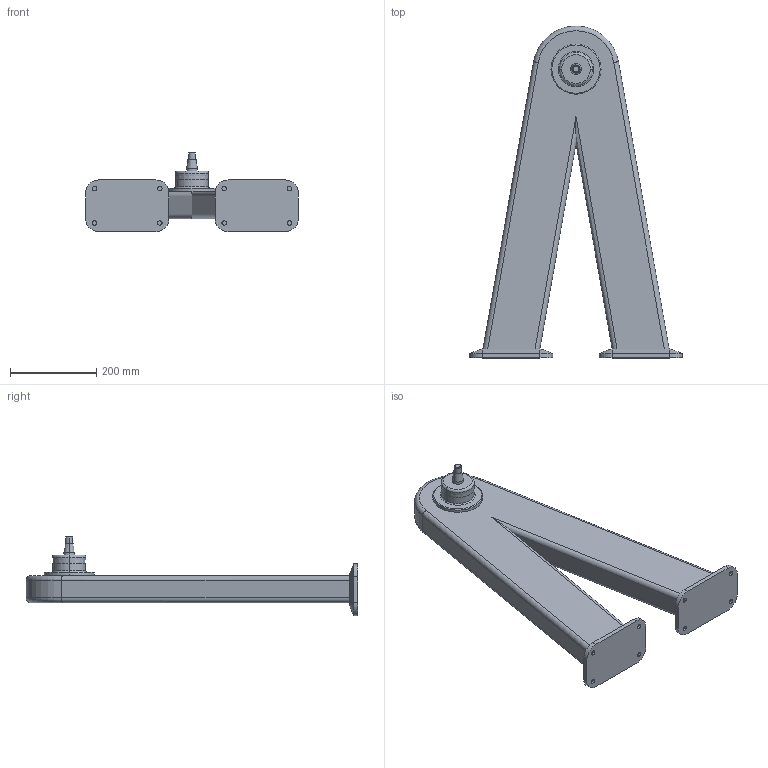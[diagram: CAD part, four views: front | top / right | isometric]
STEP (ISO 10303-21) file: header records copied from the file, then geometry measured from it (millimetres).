
FILE_DESCRIPTION (( 'STEP AP214' ), '1' );
FILE_NAME ('WP850_H670.STEP', '2014-09-08T13:03:16', ( '' ), ( '' ), 'SwSTEP 2.0', 'SolidWorks 2014', '' );
FILE_SCHEMA (( 'AUTOMOTIVE_DESIGN' ));
Length unit declared in the file: millimetre
Products named in the file (1): WP850_H670
Bounding box: 493.3 x 770 x 183.98 mm (x, y, z)
Volume: 12374829.6 mm3; surface area: 605478 mm2
Topology: 1 solids, 1 shells, 101 faces, 221 edges, 136 vertices
Faces by surface type: cylinder 41, plane 38, cone 14, torus 8
Entity records: 2795 total; most frequent: DIRECTION 513, CARTESIAN_POINT 489, ORIENTED_EDGE 442, EDGE_CURVE 221, AXIS2_PLACEMENT_3D 200, VERTEX_POINT 136, EDGE_LOOP 115, LINE 113
